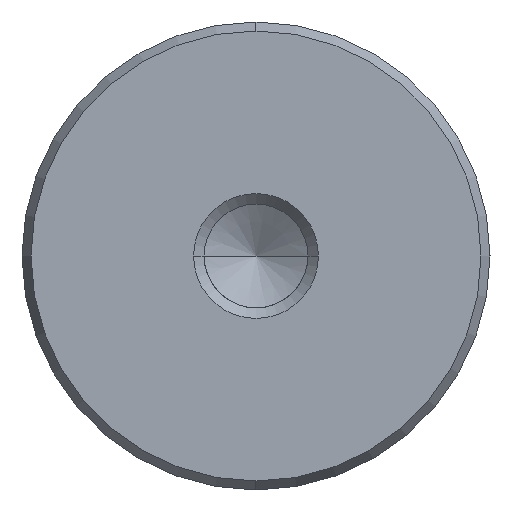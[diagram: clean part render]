
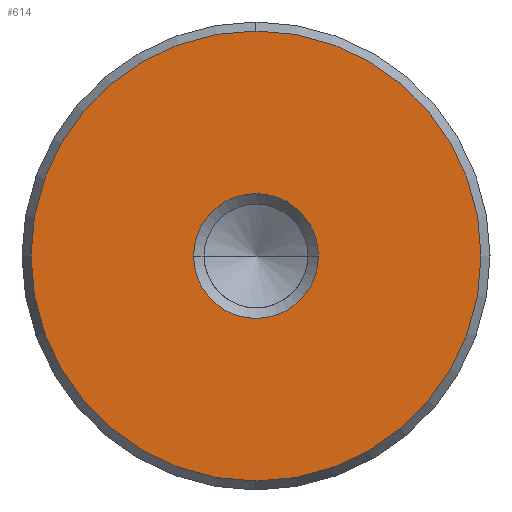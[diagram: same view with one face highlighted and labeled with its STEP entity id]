
A CAD part, left-side view. The second image highlights one B-rep face of the part: STEP entity #614.
In plain terms, the highlighted planar face has unit normal (-1, 0, 0).
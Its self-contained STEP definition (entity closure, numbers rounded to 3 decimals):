
#528=CARTESIAN_POINT('Vertex',(0.,0.,-14.423)) ;
#531=CARTESIAN_POINT('Axis2P3D Location',(0.,0.,0.)) ;
#535=CARTESIAN_POINT('Vertex',(0.,14.423,0.)) ;
#538=CARTESIAN_POINT('Axis2P3D Location',(0.,0.,0.)) ;
#542=CARTESIAN_POINT('Vertex',(0.,0.,14.423)) ;
#564=CARTESIAN_POINT('Axis2P3D Location',(0.,0.,0.)) ;
#568=CARTESIAN_POINT('Vertex',(0.,-14.423,0.)) ;
#571=CARTESIAN_POINT('Axis2P3D Location',(0.,0.,0.)) ;
#585=CARTESIAN_POINT('Axis2P3D Location',(0.,0.,0.)) ;
#596=CARTESIAN_POINT('Axis2P3D Location',(0.,0.,0.)) ;
#600=CARTESIAN_POINT('Vertex',(0.,4.,0.)) ;
#602=CARTESIAN_POINT('Vertex',(0.,-4.,0.)) ;
#605=CARTESIAN_POINT('Axis2P3D Location',(0.,0.,0.)) ;
#532=DIRECTION('Axis2P3D Direction',(1.,0.,-0.)) ;
#539=DIRECTION('Axis2P3D Direction',(1.,0.,-0.)) ;
#565=DIRECTION('Axis2P3D Direction',(1.,0.,-0.)) ;
#572=DIRECTION('Axis2P3D Direction',(1.,0.,-0.)) ;
#586=DIRECTION('Axis2P3D Direction',(1.,0.,-0.)) ;
#587=DIRECTION('Axis2P3D XDirection',(-0.,0.,-1.)) ;
#597=DIRECTION('Axis2P3D Direction',(1.,0.,-0.)) ;
#606=DIRECTION('Axis2P3D Direction',(1.,0.,-0.)) ;
#533=AXIS2_PLACEMENT_3D('Circle Axis2P3D',#531,#532,$) ;
#540=AXIS2_PLACEMENT_3D('Circle Axis2P3D',#538,#539,$) ;
#566=AXIS2_PLACEMENT_3D('Circle Axis2P3D',#564,#565,$) ;
#573=AXIS2_PLACEMENT_3D('Circle Axis2P3D',#571,#572,$) ;
#588=AXIS2_PLACEMENT_3D('Plane Axis2P3D',#585,#586,#587) ;
#598=AXIS2_PLACEMENT_3D('Circle Axis2P3D',#596,#597,$) ;
#607=AXIS2_PLACEMENT_3D('Circle Axis2P3D',#605,#606,$) ;
#591=ORIENTED_EDGE('',*,*,#537,.F.) ;
#592=ORIENTED_EDGE('',*,*,#575,.F.) ;
#593=ORIENTED_EDGE('',*,*,#570,.F.) ;
#594=ORIENTED_EDGE('',*,*,#544,.F.) ;
#611=ORIENTED_EDGE('',*,*,#604,.T.) ;
#612=ORIENTED_EDGE('',*,*,#609,.T.) ;
#613=FACE_BOUND('',#610,.T.) ;
#614=ADVANCED_FACE('720-30x280',(#595,#613),#589,.F.) ;
#534=CIRCLE('generated circle',#533,14.423) ;
#541=CIRCLE('generated circle',#540,14.423) ;
#567=CIRCLE('generated circle',#566,14.423) ;
#574=CIRCLE('generated circle',#573,14.423) ;
#599=CIRCLE('generated circle',#598,4.) ;
#608=CIRCLE('generated circle',#607,4.) ;
#537=EDGE_CURVE('',#529,#536,#534,.T.) ;
#544=EDGE_CURVE('',#536,#543,#541,.T.) ;
#570=EDGE_CURVE('',#543,#569,#567,.T.) ;
#575=EDGE_CURVE('',#569,#529,#574,.T.) ;
#604=EDGE_CURVE('',#601,#603,#599,.T.) ;
#609=EDGE_CURVE('',#603,#601,#608,.T.) ;
#590=EDGE_LOOP('',(#591,#592,#593,#594)) ;
#610=EDGE_LOOP('',(#611,#612)) ;
#595=FACE_OUTER_BOUND('',#590,.T.) ;
#589=PLANE('Plane',#588) ;
#529=VERTEX_POINT('',#528) ;
#536=VERTEX_POINT('',#535) ;
#543=VERTEX_POINT('',#542) ;
#569=VERTEX_POINT('',#568) ;
#601=VERTEX_POINT('',#600) ;
#603=VERTEX_POINT('',#602) ;
